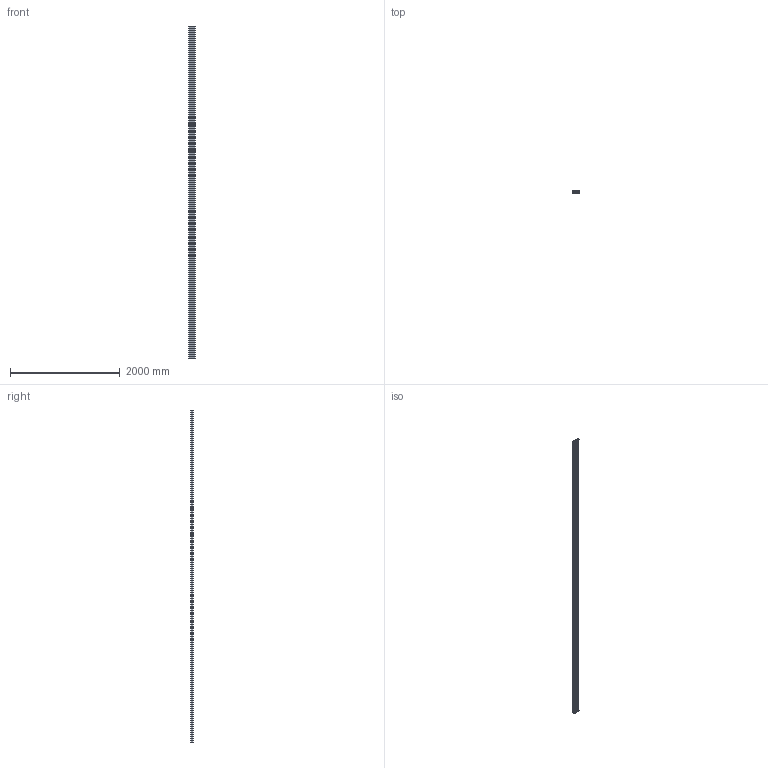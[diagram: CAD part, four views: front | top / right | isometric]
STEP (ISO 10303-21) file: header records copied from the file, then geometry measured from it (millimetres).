
FILE_DESCRIPTION (( 'STEP AP203' ), '1' );
FILE_NAME ('20208350_Profil 8 40x120L 3N.step', '2021-08-16T08:38:40', ( '' ), ( '' ), 'SwSTEP 2.0', 'SolidWorks 2021', '' );
FILE_SCHEMA (( 'CONFIG_CONTROL_DESIGN' ));
Length unit declared in the file: millimetre
Products named in the file (1): 20208350_Profil 8 40x120L 3N
Bounding box: 120 x 40 x 6060 mm (x, y, z)
Volume: 10157215.8 mm3; surface area: 6698308.1 mm2
Topology: 1 solids, 1 shells, 308 faces, 918 edges, 612 vertices
Faces by surface type: cylinder 156, plane 152
Entity records: 10559 total; most frequent: DIRECTION 1848, CARTESIAN_POINT 1839, ORIENTED_EDGE 1836, EDGE_CURVE 918, AXIS2_PLACEMENT_3D 621, VERTEX_POINT 612, LINE 606, VECTOR 606
